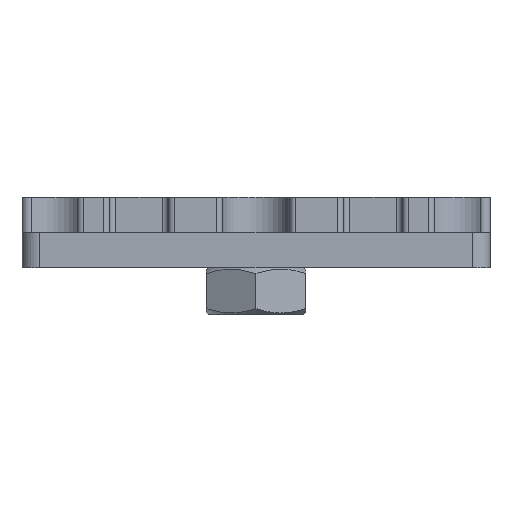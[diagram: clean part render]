
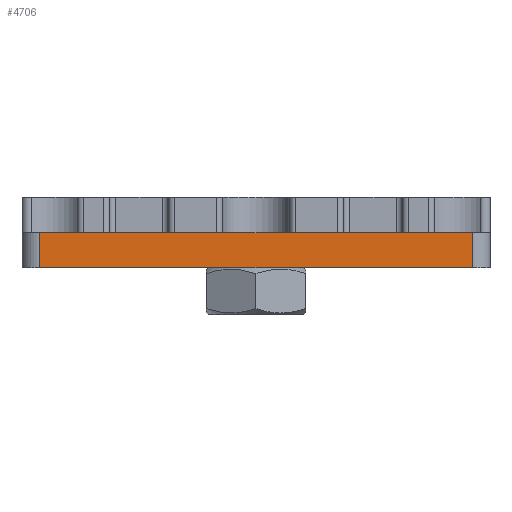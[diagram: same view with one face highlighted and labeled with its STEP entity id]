
A CAD part, front view. The second image highlights one B-rep face of the part: STEP entity #4706.
In plain terms, the highlighted planar face has unit normal (0, -1, 0).
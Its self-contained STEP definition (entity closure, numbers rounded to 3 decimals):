
#17 = VERTEX_POINT ( 'NONE', #4800 ) ;
#136 = EDGE_CURVE ( 'NONE', #8885, #1256, #4437, .T. ) ;
#150 = VECTOR ( 'NONE', #7525, 1000. ) ;
#346 = AXIS2_PLACEMENT_3D ( 'NONE', #5969, #1347, #9772 ) ;
#503 = CARTESIAN_POINT ( 'NONE',  ( -37., -40., 6. ) ) ;
#505 = LINE ( 'NONE', #8835, #3129 ) ;
#637 = CARTESIAN_POINT ( 'NONE',  ( -37., -40., 6. ) ) ;
#1027 = ORIENTED_EDGE ( 'NONE', *, *, #136, .T. ) ;
#1214 = ORIENTED_EDGE ( 'NONE', *, *, #6087, .F. ) ;
#1256 = VERTEX_POINT ( 'NONE', #6915 ) ;
#1324 = LINE ( 'NONE', #6641, #6324 ) ;
#1347 = DIRECTION ( 'NONE',  ( 0., 1., 0. ) ) ;
#2170 = EDGE_LOOP ( 'NONE', ( #7524, #6444, #1214, #1027 ) ) ;
#2617 = CARTESIAN_POINT ( 'NONE',  ( -37., -40., 6. ) ) ;
#2781 = DIRECTION ( 'NONE',  ( 0., 0., -1. ) ) ;
#3129 = VECTOR ( 'NONE', #8929, 1000. ) ;
#4437 = LINE ( 'NONE', #637, #150 ) ;
#4448 = LINE ( 'NONE', #503, #6359 ) ;
#4706 = ADVANCED_FACE ( 'NONE', ( #6910 ), #7523, .F. ) ;
#4800 = CARTESIAN_POINT ( 'NONE',  ( 37., -40., 0. ) ) ;
#5969 = CARTESIAN_POINT ( 'NONE',  ( -37., -40., 6. ) ) ;
#6087 = EDGE_CURVE ( 'NONE', #8885, #9464, #4448, .T. ) ;
#6324 = VECTOR ( 'NONE', #2781, 1000. ) ;
#6359 = VECTOR ( 'NONE', #7488, 1000. ) ;
#6444 = ORIENTED_EDGE ( 'NONE', *, *, #8773, .F. ) ;
#6641 = CARTESIAN_POINT ( 'NONE',  ( 37., -40., 6. ) ) ;
#6644 = CARTESIAN_POINT ( 'NONE',  ( 37., -40., 6. ) ) ;
#6910 = FACE_OUTER_BOUND ( 'NONE', #2170, .T. ) ;
#6915 = CARTESIAN_POINT ( 'NONE',  ( -37., -40., 0. ) ) ;
#7488 = DIRECTION ( 'NONE',  ( 1., 0., 0. ) ) ;
#7523 = PLANE ( 'NONE',  #346 ) ;
#7524 = ORIENTED_EDGE ( 'NONE', *, *, #9927, .T. ) ;
#7525 = DIRECTION ( 'NONE',  ( 0., 0., -1. ) ) ;
#8773 = EDGE_CURVE ( 'NONE', #9464, #17, #1324, .T. ) ;
#8835 = CARTESIAN_POINT ( 'NONE',  ( -37., -40., 0. ) ) ;
#8885 = VERTEX_POINT ( 'NONE', #2617 ) ;
#8929 = DIRECTION ( 'NONE',  ( 1., 0., 0. ) ) ;
#9464 = VERTEX_POINT ( 'NONE', #6644 ) ;
#9772 = DIRECTION ( 'NONE',  ( -1., 0., 0. ) ) ;
#9927 = EDGE_CURVE ( 'NONE', #1256, #17, #505, .T. ) ;
